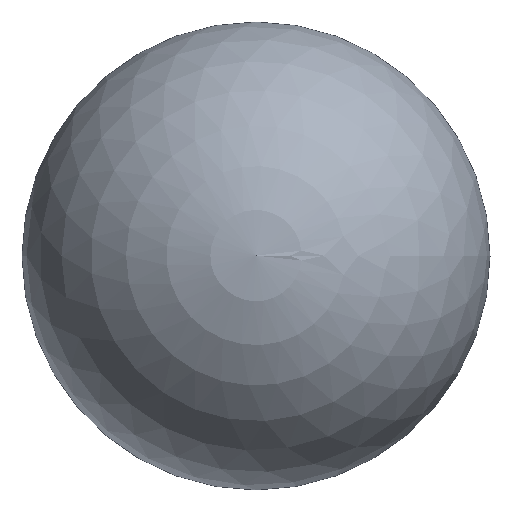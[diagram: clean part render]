
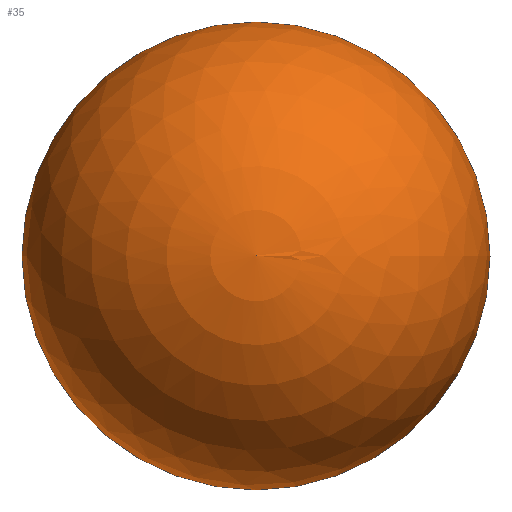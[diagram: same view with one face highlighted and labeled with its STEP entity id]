
A CAD part, top view. The second image highlights one B-rep face of the part: STEP entity #35.
In plain terms, the highlighted spherical face has radius 2.5 mm.
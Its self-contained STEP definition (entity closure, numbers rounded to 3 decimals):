
#1=CARTESIAN_POINT('',(0.,0.,0.));
#2=CARTESIAN_POINT('',(2.5,0.,0.));
#3=CARTESIAN_POINT('',(-2.5,0.,0.));
#4=VERTEX_POINT('',#2);
#5=VERTEX_POINT('',#3);
#10=DIRECTION('',(0.,0.,1.));
#11=DIRECTION('',(1.,0.,0.));
#12=DIRECTION('',(-1.,0.,0.));
#13=AXIS2_PLACEMENT_3D('',#1,#10,#11);
#14=AXIS2_PLACEMENT_3D('',#1,#10,#12);
#20=CIRCLE('',#13,2.5);
#21=CIRCLE('',#14,2.5);
#22=EDGE_CURVE('',#4,#5,#20,.T.);
#23=EDGE_CURVE('',#5,#4,#21,.T.);
#30=ORIENTED_EDGE('',*,*,#22,.T.);
#31=ORIENTED_EDGE('',*,*,#23,.T.);
#32=EDGE_LOOP('',(#30,#31));
#33=FACE_OUTER_BOUND('',#32,.T.);
#34=SPHERICAL_SURFACE('',#13,2.5);
#35=ADVANCED_FACE('',(#33),#34,.T.);
